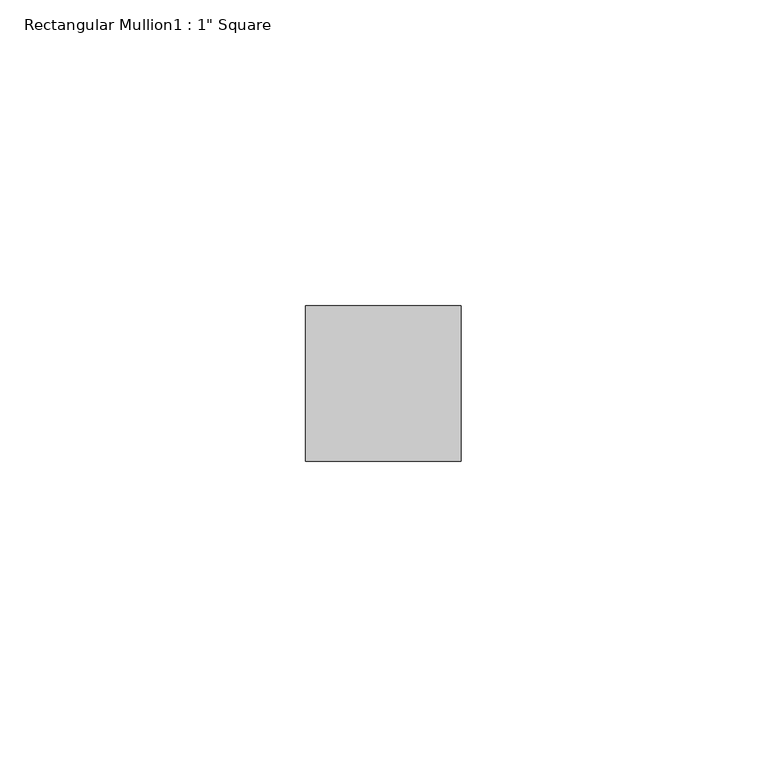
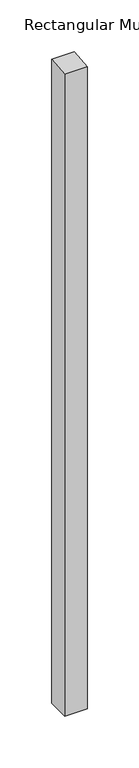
"""IFC4 building model written with IfcOpenShell, lengths in millimetres: member geometry."""

import ifcopenshell
import ifcopenshell.guid

model = None  # the IFC model being written
_history = None  # IfcOwnerHistory: only IFC2X3 demands one
_inside = {}  # id of a spatial element -> (the spatial element, [elements in it])
_under = {}  # id of a project, library or spatial element -> (it, [spatial elements below it])
_declared = {}  # id of a project -> (the project, [libraries it declares])
_typed = {}  # id of a type object -> (the type object, [elements of that type])
_made_of = {}  # id of a material, layer set ... -> (it, [elements and type objects made of it])


def new_model(schema):
    """Start an empty IFC model of exactly this schema.

    Asked for "IFC4X3", IfcOpenShell would pick the latest addendum, in which some entities
    have other attributes; the version numbers below select the first issue.
    IFC2X3 requires an IfcOwnerHistory on every rooted entity: one is made here for all.
    """
    global model, _history
    if schema == "IFC4X3":
        model = ifcopenshell.file(schema_version=(4, 3, 0, 0))
    else:
        model = ifcopenshell.file(schema=schema)
    _inside.clear()
    _under.clear()
    _declared.clear()
    _typed.clear()
    _made_of.clear()
    _history = None
    if model.schema == "IFC2X3":
        org = make("IfcOrganization", Name="unknown")
        user = make(
            "IfcPersonAndOrganization",
            ThePerson=make("IfcPerson", FamilyName="unknown"),
            TheOrganization=org,
        )
        app = make(
            "IfcApplication",
            ApplicationDeveloper=org,
            Version="unknown",
            ApplicationFullName="unknown",
            ApplicationIdentifier="unknown",
        )
        _history = make(
            "IfcOwnerHistory",
            OwningUser=user,
            OwningApplication=app,
            ChangeAction="ADDED",
            CreationDate=0,
        )
    return model


def make(cls, **values):
    """One entity of the class cls with the attributes given. An attribute that is None is left unset."""
    return model.create_entity(
        cls, **{name: value for name, value in values.items() if value is not None}
    )


def rooted(cls, **values):
    """An entity with a GlobalId (a new one), such as an element, a storey or a relation."""
    return make(cls, GlobalId=ifcopenshell.guid.new(), OwnerHistory=_history, **values)


def si_unit(unit_type, name, prefix=None):
    """IfcSIUnit, for example si_unit("LENGTHUNIT", "METRE", prefix="MILLI")."""
    return make("IfcSIUnit", UnitType=unit_type, Prefix=prefix, Name=name)


def assignment(units):
    """IfcUnitAssignment: the units of a project."""
    return None if units is None else make("IfcUnitAssignment", Units=units)


def point(xyz):
    """IfcCartesianPoint."""
    return None if xyz is None else make("IfcCartesianPoint", Coordinates=xyz)


def direction(xyz):
    """IfcDirection."""
    return None if xyz is None else make("IfcDirection", DirectionRatios=xyz)


def frame(location, z_axis=None, x_axis=None):
    """IfcAxis2Placement3D, a coordinate frame: its origin and axes. An axis left out is left unset."""
    return make(
        "IfcAxis2Placement3D",
        Location=point(location),
        Axis=direction(z_axis),
        RefDirection=direction(x_axis),
    )


def origin():
    """The frame at (0, 0, 0) with its axes left unset."""
    return frame((0.0, 0.0, 0.0))


def place(relative_to, where):
    """IfcLocalPlacement: puts the frame where relative to a parent placement (None: the world)."""
    return make(
        "IfcLocalPlacement", PlacementRelTo=relative_to, RelativePlacement=where
    )


def context(
    kind, dimensions, precision=None, world=None, true_north=None, identifier=None
):
    """IfcGeometricRepresentationContext, for example the 3D "Model" context."""
    return make(
        "IfcGeometricRepresentationContext",
        ContextIdentifier=identifier,
        ContextType=kind,
        CoordinateSpaceDimension=dimensions,
        Precision=precision,
        WorldCoordinateSystem=world,
        TrueNorth=true_north,
    )


def project(units=None, contexts=None):
    """IfcProject with its units and contexts."""
    return rooted(
        "IfcProject",
        Name="project",
        RepresentationContexts=contexts,
        UnitsInContext=assignment(units),
    )


def spatial(cls, under=None, at=None, **own):
    """A site, building, storey or space (cls), placed at a placement, below another one or the project."""
    s = rooted(cls, ObjectPlacement=at, **own)
    if under is not None:
        _under.setdefault(under.id(), (under, []))[1].append(s)
    return s


def polyline(points):
    """IfcPolyline through the points."""
    return make("IfcPolyline", Points=[point(p) for p in points])


def outline(outer, holes=None, kind="AREA"):
    """IfcArbitraryClosedProfileDef: a profile drawn as a closed curve; with holes, ...WithVoids."""
    if holes is None:
        return make("IfcArbitraryClosedProfileDef", ProfileType=kind, OuterCurve=outer)
    return make(
        "IfcArbitraryProfileDefWithVoids",
        ProfileType=kind,
        OuterCurve=outer,
        InnerCurves=holes,
    )


def extrude(swept, where, along, depth):
    """IfcExtrudedAreaSolid: the profile swept, set in the frame where, extruded along a direction by depth."""
    return make(
        "IfcExtrudedAreaSolid",
        SweptArea=swept,
        Position=where,
        ExtrudedDirection=direction(along),
        Depth=depth,
    )


def shape(context_of_items, identifier, shape_type, items):
    """IfcShapeRepresentation: the items that make up one representation, for example the "Body"."""
    return make(
        "IfcShapeRepresentation",
        ContextOfItems=context_of_items,
        RepresentationIdentifier=identifier,
        RepresentationType=shape_type,
        Items=items,
    )


def source(mapping_origin, context_of_items, identifier, shape_type, items):
    """IfcRepresentationMap: a shape defined once, which mapped items show again and again."""
    return make(
        "IfcRepresentationMap",
        MappingOrigin=mapping_origin,
        MappedRepresentation=shape(context_of_items, identifier, shape_type, items),
    )


def transform(
    local_origin,
    x_axis=None,
    y_axis=None,
    z_axis=None,
    scale=None,
    scale2=None,
    scale3=None,
    uniform=True,
):
    """IfcCartesianTransformationOperator3D, or its non-uniform kind. x_axis, y_axis, z_axis: its Axis1, 2, 3."""
    if uniform:
        return make(
            "IfcCartesianTransformationOperator3D",
            Axis1=direction(x_axis),
            Axis2=direction(y_axis),
            LocalOrigin=point(local_origin),
            Scale=scale,
            Axis3=direction(z_axis),
        )
    return make(
        "IfcCartesianTransformationOperator3DnonUniform",
        Axis1=direction(x_axis),
        Axis2=direction(y_axis),
        LocalOrigin=point(local_origin),
        Scale=scale,
        Axis3=direction(z_axis),
        Scale2=scale2,
        Scale3=scale3,
    )


def mapped(mapping_source, mapping_target):
    """IfcMappedItem: shows the shape of a source again, moved by a transform."""
    return make(
        "IfcMappedItem", MappingSource=mapping_source, MappingTarget=mapping_target
    )


def made_of(thing, what):
    """Note that an element or type object is made of a material, layer set ...; save() writes the relation."""
    if what is not None:
        _made_of.setdefault(what.id(), (what, []))[1].append(thing)
    return thing


def element(
    cls,
    number,
    at=None,
    inside=None,
    cuts=None,
    type_object=None,
    material=None,
    context=None,
    identifier="Body",
    shape_type=None,
    held_by="IfcProductDefinitionShape",
    body=None,
    shapes=None,
    **own,
):
    """One element of the class cls, such as IfcWall. Its Tag is "e" and its number.

    at: its placement. inside: the storey or other place that contains it. cuts: it is an
    opening in that element (IfcRelVoidsElement). A single representation is given by context,
    identifier, shape_type and body (its items); several are given by shapes. held_by: the class
    of the entity that holds the representations. save() writes the other relations.
    """
    e = rooted(cls, Tag="e%d" % number, ObjectPlacement=at, **own)
    if body is not None:
        shapes = [shape(context, identifier, shape_type, body)]
    if shapes is not None:
        e.Representation = make(held_by, Representations=shapes)
    if inside is not None:
        _inside.setdefault(inside.id(), (inside, []))[1].append(e)
    if cuts is not None:
        rooted(
            "IfcRelVoidsElement", RelatingBuildingElement=cuts, RelatedOpeningElement=e
        )
    if type_object is not None:
        _typed.setdefault(type_object.id(), (type_object, []))[1].append(e)
    return made_of(e, material)


def aggregate(whole, parts):
    """IfcRelAggregates: a whole, such as a stair, and the parts it consists of."""
    return rooted("IfcRelAggregates", RelatingObject=whole, RelatedObjects=parts)


def save(model, path):
    """Write the relations noted so far, then the file.

    IfcRelAggregates (storeys below a building ...), IfcRelContainedInSpatialStructure (elements
    in a storey), IfcRelDefinesByType, IfcRelAssociatesMaterial and IfcRelDeclares: one each for
    every whole, place, type object, material and project.
    """
    for whole, parts in _under.values():
        aggregate(whole, parts)
    for where, things in _inside.values():
        rooted(
            "IfcRelContainedInSpatialStructure",
            RelatedElements=things,
            RelatingStructure=where,
        )
    for kind, things in _typed.values():
        rooted("IfcRelDefinesByType", RelatedObjects=things, RelatingType=kind)
    for what, things in _made_of.values():
        rooted("IfcRelAssociatesMaterial", RelatedObjects=things, RelatingMaterial=what)
    for by, libraries in _declared.values():
        rooted("IfcRelDeclares", RelatingContext=by, RelatedDefinitions=libraries)
    model.write(path)


def member_ce544a68(model_context):
    return source(origin(), model_context, "Body", "SweptSolid", [
        extrude(outline(polyline([(-44.45, -4.2341647), (-19.05, -1.814642), (-19.05, -764.6272395), (-44.45, -764.6272395), (-44.45, -4.2341647)])), frame((-12.7, 0.0, 0.0), z_axis=(1.0, 0.0, 0.0), x_axis=(0.0, 1.0, 0.0)), (0.0, 0.0, 1.0), 25.4),
    ])


if __name__ == "__main__":
    model = new_model("IFC4")
    model_context = context("Model", 3, world=origin())
    ifc_project = project(units=[si_unit("LENGTHUNIT", "METRE", prefix="MILLI")], contexts=[model_context])
    site = spatial("IfcSite", under=ifc_project)
    building = spatial("IfcBuilding", under=site)
    placement = place(None, origin())
    member_shape = member_ce544a68(model_context)
    element("IfcMember", 1, ObjectType="Rectangular Mullion1 : 1\" Square", at=placement, inside=building, context=model_context, shape_type="MappedRepresentation", body=[
        mapped(member_shape, transform((0.0, 0.0, 0.0), x_axis=(1.0, 0.0, 0.0), y_axis=(0.0, 1.0, 0.0), z_axis=(0.0, 0.0, 1.0))),
    ])
    save(model, "model.ifc")
